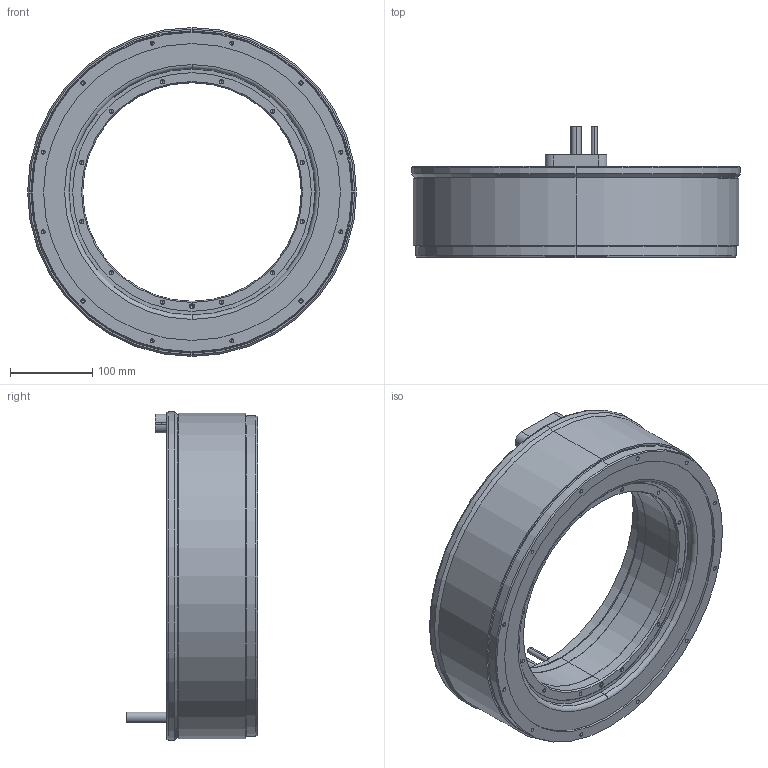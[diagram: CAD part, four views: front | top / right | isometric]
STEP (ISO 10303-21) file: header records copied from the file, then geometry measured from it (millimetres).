
FILE_DESCRIPTION (( 'STEP AP203' ), '1' );
FILE_NAME ('TM-2-A7-PB0(J0).STEP', '2023-06-06T02:18:40', ( '' ), ( '' ), 'SwSTEP 2.0', 'SolidWorks 2015', '' );
FILE_SCHEMA (( 'CONFIG_CONTROL_DESIGN' ));
Length unit declared in the file: millimetre
Products named in the file (3): TM-2-A7-PB0(J0)_Stator; TM-2-A7-PB0(J0); TM-2-A7(J0)_Rotor
Assembly tree (2 placements, depth 2):
  TM-2-A7-PB0(J0)
    TM-2-A7-PB0(J0)_Stator
    TM-2-A7(J0)_Rotor
Bounding box: 399 x 159 x 399 mm (x, y, z)
Volume: 6631289.6 mm3; surface area: 522803.5 mm2
Topology: 2 solids, 2 shells, 343 faces, 816 edges, 445 vertices
Faces by surface type: cylinder 158, cone 126, plane 51, torus 8
Entity records: 9431 total; most frequent: DIRECTION 1760, CARTESIAN_POINT 1503, ORIENTED_EDGE 1420, EDGE_CURVE 710, AXIS2_PLACEMENT_3D 702, VERTEX_POINT 445, EDGE_LOOP 421, LINE 356
